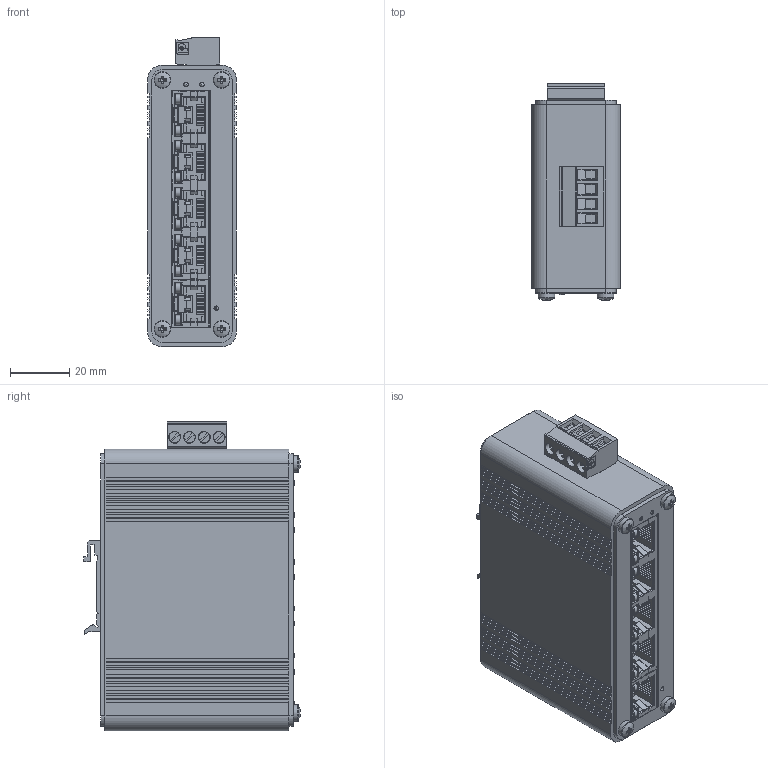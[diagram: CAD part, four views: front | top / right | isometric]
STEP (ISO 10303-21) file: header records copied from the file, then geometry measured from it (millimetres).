
FILE_DESCRIPTION(/* description */ (''),/* implementation_level */ '2;1');
FILE_NAME(/* name */ 'IS-MG-0400-0005 v1.step',/* time_stamp */ '2024-09-28T12:38:02+02:00',/* author */ (''),/* organization */ (''),/* preprocessor_version */ 'ST-DEVELOPER v20',/* originating_system */ 'Autodesk Translation Framework v13.20.0.188',/* authorisation */ '');
FILE_SCHEMA (('AUTOMOTIVE_DESIGN { 1 0 10303 214 3 1 1 }'));
Products named in the file (7): IS-MG-0400-0005; LED; POWER; Digitus_DN-651107_LAN-Switch 19.5mm; 3M Screw; 4 ports ethernet; 1 ethernet port
Assembly tree (11 placements, depth 2):
  IS-MG-0400-0005
    LED  x3
    POWER
    Digitus_DN-651107_LAN-Switch 19.5mm
    3M Screw  x4
    4 ports ethernet
    1 ethernet port
Bounding box: 30 x 73.11 x 104.4 mm (x, y, z)
Volume: 33222.3 mm3; surface area: 64468.6 mm2
Topology: 137 solids, 137 shells, 3418 faces, 9119 edges, 5910 vertices
Faces by surface type: plane 2863, cylinder 441, cone 99, torus 8, sphere 4, bspline 3
Full cylindrical faces by diameter (mm): 0.434 x1, 0.55 x58, 0.609 x1, 1.4 x4, 1.5 x6, 2.08 x3, 3 x8, 3.202 x10, 3.783 x4, 4 x4, 5.6 x4
Entity records: 102038 total; most frequent: CARTESIAN_POINT 18717, ORIENTED_EDGE 17534, DIRECTION 16204, EDGE_CURVE 8767, LINE 7540, VECTOR 7540, VERTEX_POINT 5700, AXIS2_PLACEMENT_3D 4332
